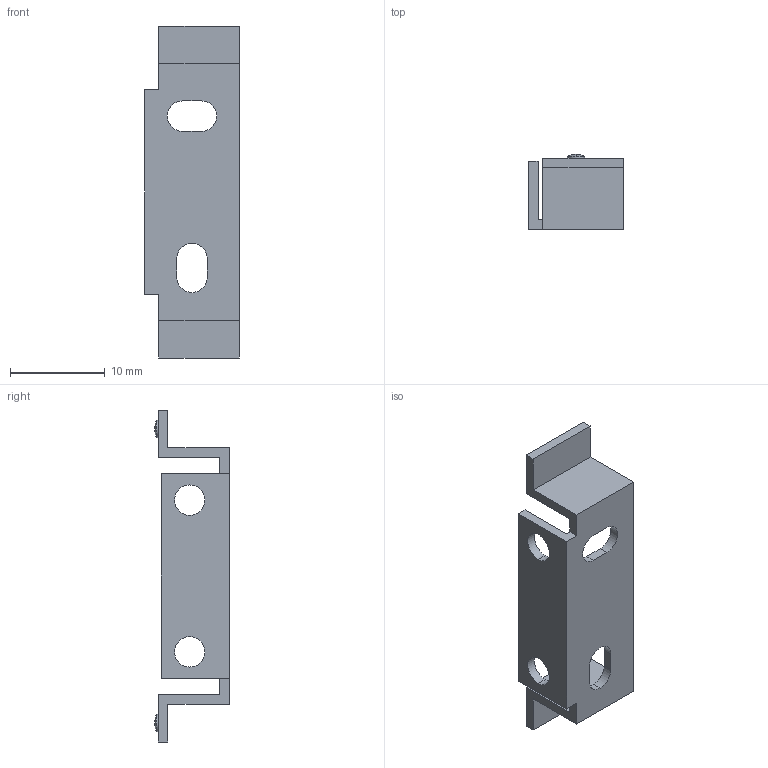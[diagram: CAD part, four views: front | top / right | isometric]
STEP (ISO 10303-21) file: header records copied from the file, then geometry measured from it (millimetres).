
FILE_DESCRIPTION (( 'STEP AP203' ), '1' );
FILE_NAME ('MS-DIN-2.STEP', '2005-09-05T02:12:48', ( '' ), ( '' ), 'SwSTEP 2.0', 'SolidWorks 2004073', '' );
FILE_SCHEMA (( 'CONFIG_CONTROL_DESIGN' ));
Length unit declared in the file: millimetre
Products named in the file (1): MS-DIN-2
Bounding box: 10 x 7.9 x 35 mm (x, y, z)
Volume: 530.9 mm3; surface area: 1237.8 mm2
Topology: 1 solids, 1 shells, 41 faces, 109 edges, 72 vertices
Faces by surface type: plane 24, cylinder 13, sphere 4
Entity records: 1370 total; most frequent: DIRECTION 223, CARTESIAN_POINT 223, ORIENTED_EDGE 218, EDGE_CURVE 109, VECTOR 79, LINE 79, VERTEX_POINT 72, AXIS2_PLACEMENT_3D 72
